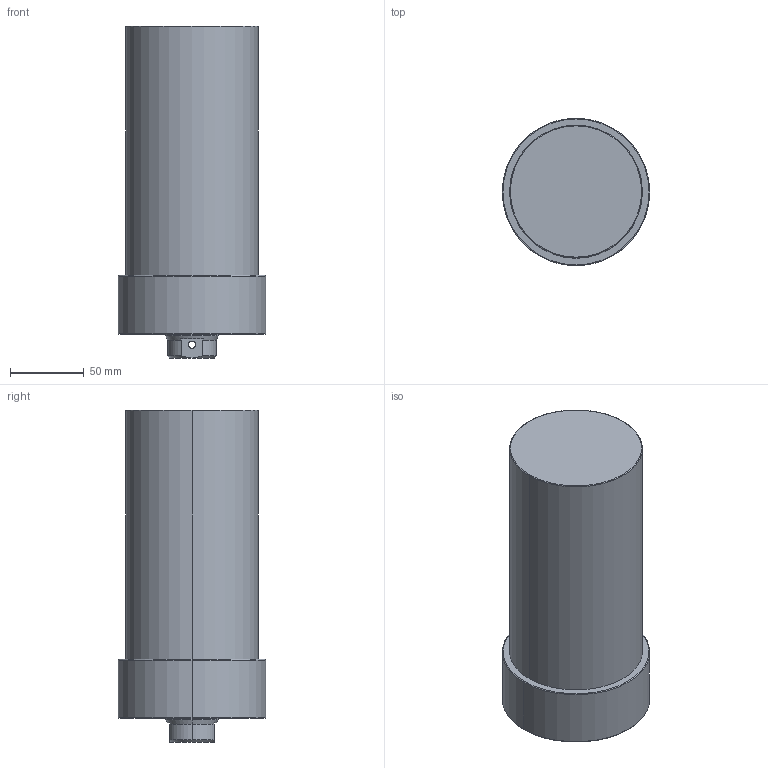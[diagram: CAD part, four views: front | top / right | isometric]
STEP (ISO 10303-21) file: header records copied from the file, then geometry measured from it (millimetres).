
FILE_DESCRIPTION (( 'STEP AP203' ), '1' );
FILE_NAME ('CLLU-090GB-125.STEP', '2020-01-13T05:55:10', ( '' ), ( '' ), 'SwSTEP 2.0', 'SolidWorks 2015', '' );
FILE_SCHEMA (( 'CONFIG_CONTROL_DESIGN' ));
Length unit declared in the file: millimetre
Products named in the file (1): CLLU-090GB-125
Bounding box: 100 x 100 x 225 mm (x, y, z)
Volume: 1382779.8 mm3; surface area: 83383.7 mm2
Topology: 1 solids, 1 shells, 68 faces, 155 edges, 88 vertices
Faces by surface type: cylinder 27, cone 25, plane 10, torus 6
Entity records: 2061 total; most frequent: CARTESIAN_POINT 462, DIRECTION 350, ORIENTED_EDGE 290, AXIS2_PLACEMENT_3D 148, EDGE_CURVE 145, VERTEX_POINT 88, EDGE_LOOP 81, CIRCLE 79
